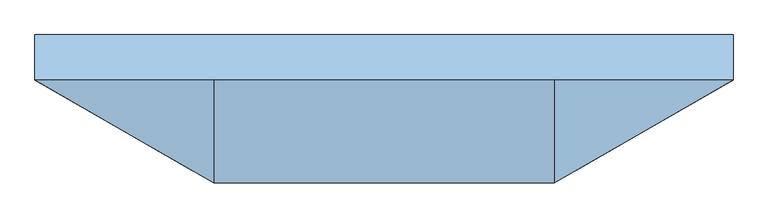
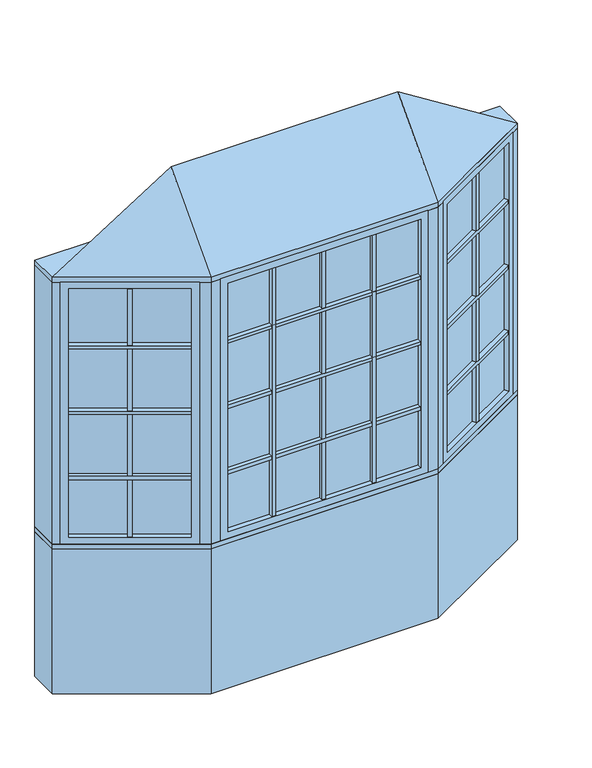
"""IFC4 building model written with IfcOpenShell, lengths in millimetres: window geometry, Pollard_Windows_Tudor Casement Bows and Bays : AML-BAY 30 AFR0614-12-600_GC."""

import ifcopenshell
import ifcopenshell.guid

model = None  # the IFC model being written
_history = None  # IfcOwnerHistory: only IFC2X3 demands one
_inside = {}  # id of a spatial element -> (the spatial element, [elements in it])
_under = {}  # id of a project, library or spatial element -> (it, [spatial elements below it])
_declared = {}  # id of a project -> (the project, [libraries it declares])
_typed = {}  # id of a type object -> (the type object, [elements of that type])
_made_of = {}  # id of a material, layer set ... -> (it, [elements and type objects made of it])


def new_model(schema):
    """Start an empty IFC model of exactly this schema.

    Asked for "IFC4X3", IfcOpenShell would pick the latest addendum, in which some entities
    have other attributes; the version numbers below select the first issue.
    IFC2X3 requires an IfcOwnerHistory on every rooted entity: one is made here for all.
    """
    global model, _history
    if schema == "IFC4X3":
        model = ifcopenshell.file(schema_version=(4, 3, 0, 0))
    else:
        model = ifcopenshell.file(schema=schema)
    _inside.clear()
    _under.clear()
    _declared.clear()
    _typed.clear()
    _made_of.clear()
    _history = None
    if model.schema == "IFC2X3":
        org = make("IfcOrganization", Name="unknown")
        user = make(
            "IfcPersonAndOrganization",
            ThePerson=make("IfcPerson", FamilyName="unknown"),
            TheOrganization=org,
        )
        app = make(
            "IfcApplication",
            ApplicationDeveloper=org,
            Version="unknown",
            ApplicationFullName="unknown",
            ApplicationIdentifier="unknown",
        )
        _history = make(
            "IfcOwnerHistory",
            OwningUser=user,
            OwningApplication=app,
            ChangeAction="ADDED",
            CreationDate=0,
        )
    return model


def make(cls, **values):
    """One entity of the class cls with the attributes given. An attribute that is None is left unset."""
    return model.create_entity(
        cls, **{name: value for name, value in values.items() if value is not None}
    )


def rooted(cls, **values):
    """An entity with a GlobalId (a new one), such as an element, a storey or a relation."""
    return make(cls, GlobalId=ifcopenshell.guid.new(), OwnerHistory=_history, **values)


def si_unit(unit_type, name, prefix=None):
    """IfcSIUnit, for example si_unit("LENGTHUNIT", "METRE", prefix="MILLI")."""
    return make("IfcSIUnit", UnitType=unit_type, Prefix=prefix, Name=name)


def assignment(units):
    """IfcUnitAssignment: the units of a project."""
    return None if units is None else make("IfcUnitAssignment", Units=units)


def point(xyz):
    """IfcCartesianPoint."""
    return None if xyz is None else make("IfcCartesianPoint", Coordinates=xyz)


def direction(xyz):
    """IfcDirection."""
    return None if xyz is None else make("IfcDirection", DirectionRatios=xyz)


def frame(location, z_axis=None, x_axis=None):
    """IfcAxis2Placement3D, a coordinate frame: its origin and axes. An axis left out is left unset."""
    return make(
        "IfcAxis2Placement3D",
        Location=point(location),
        Axis=direction(z_axis),
        RefDirection=direction(x_axis),
    )


def origin():
    """The frame at (0, 0, 0) with its axes left unset."""
    return frame((0.0, 0.0, 0.0))


def origin_with_axes():
    """The frame at (0, 0, 0) with the z axis (0, 0, 1) and the x axis (1, 0, 0) written out."""
    return frame((0.0, 0.0, 0.0), z_axis=(0.0, 0.0, 1.0), x_axis=(1.0, 0.0, 0.0))


def place(relative_to, where):
    """IfcLocalPlacement: puts the frame where relative to a parent placement (None: the world)."""
    return make(
        "IfcLocalPlacement", PlacementRelTo=relative_to, RelativePlacement=where
    )


def context(
    kind, dimensions, precision=None, world=None, true_north=None, identifier=None
):
    """IfcGeometricRepresentationContext, for example the 3D "Model" context."""
    return make(
        "IfcGeometricRepresentationContext",
        ContextIdentifier=identifier,
        ContextType=kind,
        CoordinateSpaceDimension=dimensions,
        Precision=precision,
        WorldCoordinateSystem=world,
        TrueNorth=true_north,
    )


def project(units=None, contexts=None):
    """IfcProject with its units and contexts."""
    return rooted(
        "IfcProject",
        Name="project",
        RepresentationContexts=contexts,
        UnitsInContext=assignment(units),
    )


def spatial(cls, under=None, at=None, **own):
    """A site, building, storey or space (cls), placed at a placement, below another one or the project."""
    s = rooted(cls, ObjectPlacement=at, **own)
    if under is not None:
        _under.setdefault(under.id(), (under, []))[1].append(s)
    return s


def polyline(points):
    """IfcPolyline through the points."""
    return make("IfcPolyline", Points=[point(p) for p in points])


def outline(outer, holes=None, kind="AREA"):
    """IfcArbitraryClosedProfileDef: a profile drawn as a closed curve; with holes, ...WithVoids."""
    if holes is None:
        return make("IfcArbitraryClosedProfileDef", ProfileType=kind, OuterCurve=outer)
    return make(
        "IfcArbitraryProfileDefWithVoids",
        ProfileType=kind,
        OuterCurve=outer,
        InnerCurves=holes,
    )


def extrude(swept, where, along, depth):
    """IfcExtrudedAreaSolid: the profile swept, set in the frame where, extruded along a direction by depth."""
    return make(
        "IfcExtrudedAreaSolid",
        SweptArea=swept,
        Position=where,
        ExtrudedDirection=direction(along),
        Depth=depth,
    )


def faces_of(points, faces, orient=None, outer=None):
    """IfcFace entities. A face is a list of loops; a loop is a list of indices into points, from 0.

    orient and outer hold one flag for each loop. By default every Orientation is true, the
    first loop of a face is its IfcFaceOuterBound and the others are IfcFaceBound.
    """
    made = []
    for i, loops in enumerate(faces):
        bounds = []
        for j, loop in enumerate(loops):
            is_outer = j == 0 if outer is None else outer[i][j]
            bounds.append(
                make(
                    "IfcFaceOuterBound" if is_outer else "IfcFaceBound",
                    Bound=make("IfcPolyLoop", Polygon=[points[k] for k in loop]),
                    Orientation=True if orient is None else orient[i][j],
                )
            )
        made.append(make("IfcFace", Bounds=bounds))
    return made


def faceted_brep(points, faces, orient=None, outer=None, voids=None):
    """IfcFacetedBrep: a solid bounded by flat faces; with voids (closed shells), ...WithVoids."""
    shared = [point(p) for p in points]
    hull = make("IfcClosedShell", CfsFaces=faces_of(shared, faces, orient, outer))
    if voids is None:
        return make("IfcFacetedBrep", Outer=hull)
    return make(
        "IfcFacetedBrepWithVoids",
        Outer=hull,
        Voids=[
            make(cls, CfsFaces=faces_of(shared, fs, o, b)) for cls, fs, o, b in voids
        ],
    )


def shape(context_of_items, identifier, shape_type, items):
    """IfcShapeRepresentation: the items that make up one representation, for example the "Body"."""
    return make(
        "IfcShapeRepresentation",
        ContextOfItems=context_of_items,
        RepresentationIdentifier=identifier,
        RepresentationType=shape_type,
        Items=items,
    )


def source(mapping_origin, context_of_items, identifier, shape_type, items):
    """IfcRepresentationMap: a shape defined once, which mapped items show again and again."""
    return make(
        "IfcRepresentationMap",
        MappingOrigin=mapping_origin,
        MappedRepresentation=shape(context_of_items, identifier, shape_type, items),
    )


def transform(
    local_origin,
    x_axis=None,
    y_axis=None,
    z_axis=None,
    scale=None,
    scale2=None,
    scale3=None,
    uniform=True,
):
    """IfcCartesianTransformationOperator3D, or its non-uniform kind. x_axis, y_axis, z_axis: its Axis1, 2, 3."""
    if uniform:
        return make(
            "IfcCartesianTransformationOperator3D",
            Axis1=direction(x_axis),
            Axis2=direction(y_axis),
            LocalOrigin=point(local_origin),
            Scale=scale,
            Axis3=direction(z_axis),
        )
    return make(
        "IfcCartesianTransformationOperator3DnonUniform",
        Axis1=direction(x_axis),
        Axis2=direction(y_axis),
        LocalOrigin=point(local_origin),
        Scale=scale,
        Axis3=direction(z_axis),
        Scale2=scale2,
        Scale3=scale3,
    )


def mapped(mapping_source, mapping_target):
    """IfcMappedItem: shows the shape of a source again, moved by a transform."""
    return make(
        "IfcMappedItem", MappingSource=mapping_source, MappingTarget=mapping_target
    )


def made_of(thing, what):
    """Note that an element or type object is made of a material, layer set ...; save() writes the relation."""
    if what is not None:
        _made_of.setdefault(what.id(), (what, []))[1].append(thing)
    return thing


def element(
    cls,
    number,
    at=None,
    inside=None,
    cuts=None,
    type_object=None,
    material=None,
    context=None,
    identifier="Body",
    shape_type=None,
    held_by="IfcProductDefinitionShape",
    body=None,
    shapes=None,
    **own,
):
    """One element of the class cls, such as IfcWall. Its Tag is "e" and its number.

    at: its placement. inside: the storey or other place that contains it. cuts: it is an
    opening in that element (IfcRelVoidsElement). A single representation is given by context,
    identifier, shape_type and body (its items); several are given by shapes. held_by: the class
    of the entity that holds the representations. save() writes the other relations.
    """
    e = rooted(cls, Tag="e%d" % number, ObjectPlacement=at, **own)
    if body is not None:
        shapes = [shape(context, identifier, shape_type, body)]
    if shapes is not None:
        e.Representation = make(held_by, Representations=shapes)
    if inside is not None:
        _inside.setdefault(inside.id(), (inside, []))[1].append(e)
    if cuts is not None:
        rooted(
            "IfcRelVoidsElement", RelatingBuildingElement=cuts, RelatedOpeningElement=e
        )
    if type_object is not None:
        _typed.setdefault(type_object.id(), (type_object, []))[1].append(e)
    return made_of(e, material)


def aggregate(whole, parts):
    """IfcRelAggregates: a whole, such as a stair, and the parts it consists of."""
    return rooted("IfcRelAggregates", RelatingObject=whole, RelatedObjects=parts)


def save(model, path):
    """Write the relations noted so far, then the file.

    IfcRelAggregates (storeys below a building ...), IfcRelContainedInSpatialStructure (elements
    in a storey), IfcRelDefinesByType, IfcRelAssociatesMaterial and IfcRelDeclares: one each for
    every whole, place, type object, material and project.
    """
    for whole, parts in _under.values():
        aggregate(whole, parts)
    for where, things in _inside.values():
        rooted(
            "IfcRelContainedInSpatialStructure",
            RelatedElements=things,
            RelatingStructure=where,
        )
    for kind, things in _typed.values():
        rooted("IfcRelDefinesByType", RelatedObjects=things, RelatingType=kind)
    for what, things in _made_of.values():
        rooted("IfcRelAssociatesMaterial", RelatedObjects=things, RelatingMaterial=what)
    for by, libraries in _declared.values():
        rooted("IfcRelDeclares", RelatingContext=by, RelatedDefinitions=libraries)
    model.write(path)


def window_95a61270(model_context):
    return source(origin(), model_context, "Body", "SolidModel", [
        extrude(outline(polyline([(646.881999, -376.6297343), (635.881999, -357.5771754), (1102.1135794, -88.3982469), (1113.1135794, -107.4508058), (646.881999, -376.6297343)])), frame((0.0, 0.0, 1490.998), z_axis=(0.0, 0.0, 1.0), x_axis=(1.0, 0.0, 0.0)), (0.0, 0.0, 1.0), 18.0),
        extrude(outline(polyline([(633.341999, -353.1777664), (622.341999, -334.1252075), (1088.5735794, -64.946279), (1099.5735794, -83.9988379), (633.341999, -353.1777664)])), frame((0.0, 0.0, 1490.998), z_axis=(0.0, 0.0, 1.0), x_axis=(1.0, 0.0, 0.0)), (0.0, 0.0, 1.0), 18.0),
        extrude(outline(polyline([(646.881999, -376.6297343), (635.881999, -357.5771754), (1102.1135794, -88.3982469), (1113.1135794, -107.4508058), (646.881999, -376.6297343)])), frame((0.0, 0.0, 1140.998), z_axis=(0.0, 0.0, 1.0), x_axis=(1.0, 0.0, 0.0)), (0.0, 0.0, 1.0), 18.0),
        extrude(outline(polyline([(633.341999, -353.1777664), (622.341999, -334.1252075), (1088.5735794, -64.946279), (1099.5735794, -83.9988379), (633.341999, -353.1777664)])), frame((0.0, 0.0, 1140.998), z_axis=(0.0, 0.0, 1.0), x_axis=(1.0, 0.0, 0.0)), (0.0, 0.0, 1.0), 18.0),
        extrude(outline(polyline([(646.881999, -376.6297343), (635.881999, -357.5771754), (1102.1135794, -88.3982469), (1113.1135794, -107.4508058), (646.881999, -376.6297343)])), frame((0.0, 0.0, 1490.998), z_axis=(0.0, 0.0, 1.0), x_axis=(1.0, 0.0, 0.0)), (0.0, 0.0, 1.0), 18.0),
        extrude(outline(polyline([(633.341999, -353.1777664), (622.341999, -334.1252075), (1088.5735794, -64.946279), (1099.5735794, -83.9988379), (633.341999, -353.1777664)])), frame((0.0, 0.0, 1490.998), z_axis=(0.0, 0.0, 1.0), x_axis=(1.0, 0.0, 0.0)), (0.0, 0.0, 1.0), 18.0),
        extrude(outline(polyline([(646.881999, -376.6297343), (635.881999, -357.5771754), (1102.1135794, -88.3982469), (1113.1135794, -107.4508058), (646.881999, -376.6297343)])), frame((0.0, 0.0, 1490.998), z_axis=(0.0, 0.0, 1.0), x_axis=(1.0, 0.0, 0.0)), (0.0, 0.0, 1.0), 18.0),
        extrude(outline(polyline([(633.341999, -353.1777664), (622.341999, -334.1252075), (1088.5735794, -64.946279), (1099.5735794, -83.9988379), (633.341999, -353.1777664)])), frame((0.0, 0.0, 1490.998), z_axis=(0.0, 0.0, 1.0), x_axis=(1.0, 0.0, 0.0)), (0.0, 0.0, 1.0), 18.0),
        extrude(outline(polyline([(646.881999, -376.6297343), (635.881999, -357.5771754), (1102.1135794, -88.3982469), (1113.1135794, -107.4508058), (646.881999, -376.6297343)])), frame((0.0, 0.0, 1840.998), z_axis=(0.0, 0.0, 1.0), x_axis=(1.0, 0.0, 0.0)), (0.0, 0.0, 1.0), 18.0),
        extrude(outline(polyline([(633.341999, -353.1777664), (622.341999, -334.1252075), (1088.5735794, -64.946279), (1099.5735794, -83.9988379), (633.341999, -353.1777664)])), frame((0.0, 0.0, 1840.998), z_axis=(0.0, 0.0, 1.0), x_axis=(1.0, 0.0, 0.0)), (0.0, 0.0, 1.0), 18.0),
        extrude(outline(polyline([(876.7920178, -218.4877112), (887.7920178, -237.5402701), (872.2035606, -246.5402701), (861.2035606, -227.4877112), (876.7920178, -218.4877112)])), frame((0.0, 0.0, 835.8628), z_axis=(0.0, 0.0, 1.0), x_axis=(1.0, 0.0, 0.0)), (0.0, 0.0, 1.0), 1328.2704),
        extrude(outline(polyline([(874.2520178, -214.0883021), (858.6635606, -223.0883021), (847.6635606, -204.0357432), (863.2520178, -195.0357432), (874.2520178, -214.0883021)])), frame((0.0, 0.0, 835.8628), z_axis=(0.0, 0.0, 1.0), x_axis=(1.0, 0.0, 0.0)), (0.0, 0.0, 1.0), 1328.2704),
        extrude(outline(polyline([(1113.112102, -82.0482469), (624.8834764, -363.9271754), (622.3434764, -359.5277664), (1110.572102, -77.6488379), (1113.112102, -82.0482469)])), frame((0.0, 0.0, 823.1628), z_axis=(0.0, 0.0, 1.0), x_axis=(1.0, 0.0, 0.0)), (0.0, 0.0, 1.0), 1353.6704),
        faceted_brep([(1102.1135794, -88.3982469, 835.8628), (1114.8135794, -110.3952922, 835.8628), (1114.8135794, -110.3952922, 2164.1332), (1102.1135794, -88.3982469, 2164.1332), (1110.572102, -77.6488379, 823.1628), (1113.112102, -82.0482469, 823.1628), (1113.112102, -82.0482469, 2176.8332), (1110.572102, -77.6488379, 2176.8332), (1086.8735794, -62.0017926, 835.8628), (1099.5735794, -83.9988379, 835.8628), (1099.5735794, -83.9988379, 2164.1332), (1086.8735794, -62.0017926, 2164.1332), (1145.8734073, -92.4628922, 799.998), (1117.9334073, -44.0693926, 799.998), (1117.9334073, -44.0693926, 2199.998), (1145.8734073, -92.4628922, 2199.998), (648.581999, -379.5742207, 2164.1332), (635.881999, -357.5771754, 2164.1332), (624.8834764, -363.9271754, 2176.8332), (622.3434764, -359.5277664, 2176.8332), (633.341999, -353.1777664, 2164.1332), (620.641999, -331.1807211, 2164.1332), (589.5821711, -349.1131211, 2199.998), (617.5221711, -397.5066207, 2199.998), (648.581999, -379.5742207, 835.8628), (635.881999, -357.5771754, 835.8628), (624.8834764, -363.9271754, 823.1628), (622.3434764, -359.5277664, 823.1628), (633.341999, -353.1777664, 835.8628), (620.641999, -331.1807211, 835.8628), (589.5821711, -349.1131211, 799.998), (617.5221711, -397.5066207, 799.998)], [[[0, 1, 2, 3]], [[4, 5, 6, 7]], [[8, 9, 10, 11]], [[12, 13, 14, 15]], [[3, 2, 16, 17]], [[7, 6, 18, 19]], [[11, 10, 20, 21]], [[15, 14, 22, 23]], [[17, 16, 24, 25]], [[19, 18, 26, 27]], [[21, 20, 28, 29]], [[23, 22, 30, 31]], [[25, 24, 1, 0]], [[5, 26, 18, 6], [3, 17, 25, 0]], [[27, 26, 5, 4]], [[7, 19, 27, 4], [9, 28, 20, 10]], [[29, 28, 9, 8]], [[13, 30, 22, 14], [11, 21, 29, 8]], [[31, 30, 13, 12]], [[15, 23, 31, 12], [1, 24, 16, 2]]]),
        extrude(outline(polyline([(264.0281504, -397.1066207), (264.0281504, -419.1066207), (246.0281504, -419.1066207), (246.0281504, -397.1066207), (264.0281504, -397.1066207)])), frame((0.0, 0.0, 835.8628), z_axis=(0.0, 0.0, 1.0), x_axis=(1.0, 0.0, 0.0)), (0.0, 0.0, 1.0), 1328.2704),
        extrude(outline(polyline([(264.0281504, -392.0266207), (246.0281504, -392.0266207), (246.0281504, -370.0266207), (264.0281504, -370.0266207), (264.0281504, -392.0266207)])), frame((0.0, 0.0, 835.8628), z_axis=(0.0, 0.0, 1.0), x_axis=(1.0, 0.0, 0.0)), (0.0, 0.0, 1.0), 1328.2704),
        extrude(outline(polyline([(-246.0281504, -397.1066207), (-246.0281504, -419.1066207), (-264.0281504, -419.1066207), (-264.0281504, -397.1066207), (-246.0281504, -397.1066207)])), frame((0.0, 0.0, 835.8628), z_axis=(0.0, 0.0, 1.0), x_axis=(1.0, 0.0, 0.0)), (0.0, 0.0, 1.0), 1328.2704),
        extrude(outline(polyline([(-246.0281504, -392.0266207), (-264.0281504, -392.0266207), (-264.0281504, -370.0266207), (-246.0281504, -370.0266207), (-246.0281504, -392.0266207)])), frame((0.0, 0.0, 835.8628), z_axis=(0.0, 0.0, 1.0), x_axis=(1.0, 0.0, 0.0)), (0.0, 0.0, 1.0), 1328.2704),
        extrude(outline(polyline([(-488.3561009, -419.1066207), (-488.3561009, -397.1066207), (488.3561009, -397.1066207), (488.3561009, -419.1066207), (-488.3561009, -419.1066207)])), frame((0.0, 0.0, 1140.998), z_axis=(0.0, 0.0, 1.0), x_axis=(1.0, 0.0, 0.0)), (0.0, 0.0, 1.0), 18.0),
        extrude(outline(polyline([(-488.3561009, -392.0266207), (-488.3561009, -370.0266207), (488.3561009, -370.0266207), (488.3561009, -392.0266207), (-488.3561009, -392.0266207)])), frame((0.0, 0.0, 1140.998), z_axis=(0.0, 0.0, 1.0), x_axis=(1.0, 0.0, 0.0)), (0.0, 0.0, 1.0), 18.0),
        extrude(outline(polyline([(-488.3561009, -419.1066207), (-488.3561009, -397.1066207), (488.3561009, -397.1066207), (488.3561009, -419.1066207), (-488.3561009, -419.1066207)])), frame((0.0, 0.0, 1490.998), z_axis=(0.0, 0.0, 1.0), x_axis=(1.0, 0.0, 0.0)), (0.0, 0.0, 1.0), 18.0),
        extrude(outline(polyline([(-488.3561009, -392.0266207), (-488.3561009, -370.0266207), (488.3561009, -370.0266207), (488.3561009, -392.0266207), (-488.3561009, -392.0266207)])), frame((0.0, 0.0, 1490.998), z_axis=(0.0, 0.0, 1.0), x_axis=(1.0, 0.0, 0.0)), (0.0, 0.0, 1.0), 18.0),
        extrude(outline(polyline([(-488.3561009, -419.1066207), (-488.3561009, -397.1066207), (488.3561009, -397.1066207), (488.3561009, -419.1066207), (-488.3561009, -419.1066207)])), frame((0.0, 0.0, 1490.998), z_axis=(0.0, 0.0, 1.0), x_axis=(1.0, 0.0, 0.0)), (0.0, 0.0, 1.0), 18.0),
        extrude(outline(polyline([(-488.3561009, -392.0266207), (-488.3561009, -370.0266207), (488.3561009, -370.0266207), (488.3561009, -392.0266207), (-488.3561009, -392.0266207)])), frame((0.0, 0.0, 1490.998), z_axis=(0.0, 0.0, 1.0), x_axis=(1.0, 0.0, 0.0)), (0.0, 0.0, 1.0), 18.0),
        extrude(outline(polyline([(-488.3561009, -419.1066207), (-488.3561009, -397.1066207), (488.3561009, -397.1066207), (488.3561009, -419.1066207), (-488.3561009, -419.1066207)])), frame((0.0, 0.0, 1490.998), z_axis=(0.0, 0.0, 1.0), x_axis=(1.0, 0.0, 0.0)), (0.0, 0.0, 1.0), 18.0),
        extrude(outline(polyline([(-488.3561009, -392.0266207), (-488.3561009, -370.0266207), (488.3561009, -370.0266207), (488.3561009, -392.0266207), (-488.3561009, -392.0266207)])), frame((0.0, 0.0, 1490.998), z_axis=(0.0, 0.0, 1.0), x_axis=(1.0, 0.0, 0.0)), (0.0, 0.0, 1.0), 18.0),
        extrude(outline(polyline([(-1113.1135794, -107.4508058), (-1102.1135794, -88.3982469), (-635.881999, -357.5771754), (-646.881999, -376.6297343), (-1113.1135794, -107.4508058)])), frame((0.0, 0.0, 1140.998), z_axis=(0.0, 0.0, 1.0), x_axis=(1.0, 0.0, 0.0)), (0.0, 0.0, 1.0), 18.0),
        extrude(outline(polyline([(-1099.5735794, -83.9988379), (-1088.5735794, -64.946279), (-622.341999, -334.1252075), (-633.341999, -353.1777664), (-1099.5735794, -83.9988379)])), frame((0.0, 0.0, 1140.998), z_axis=(0.0, 0.0, 1.0), x_axis=(1.0, 0.0, 0.0)), (0.0, 0.0, 1.0), 18.0),
        extrude(outline(polyline([(-1113.1135794, -107.4508058), (-1102.1135794, -88.3982469), (-635.881999, -357.5771754), (-646.881999, -376.6297343), (-1113.1135794, -107.4508058)])), frame((0.0, 0.0, 1490.998), z_axis=(0.0, 0.0, 1.0), x_axis=(1.0, 0.0, 0.0)), (0.0, 0.0, 1.0), 18.0),
        extrude(outline(polyline([(-1099.5735794, -83.9988379), (-1088.5735794, -64.946279), (-622.341999, -334.1252075), (-633.341999, -353.1777664), (-1099.5735794, -83.9988379)])), frame((0.0, 0.0, 1490.998), z_axis=(0.0, 0.0, 1.0), x_axis=(1.0, 0.0, 0.0)), (0.0, 0.0, 1.0), 18.0),
        extrude(outline(polyline([(-1113.1135794, -107.4508058), (-1102.1135794, -88.3982469), (-635.881999, -357.5771754), (-646.881999, -376.6297343), (-1113.1135794, -107.4508058)])), frame((0.0, 0.0, 1490.998), z_axis=(0.0, 0.0, 1.0), x_axis=(1.0, 0.0, 0.0)), (0.0, 0.0, 1.0), 18.0),
        extrude(outline(polyline([(-1099.5735794, -83.9988379), (-1088.5735794, -64.946279), (-622.341999, -334.1252075), (-633.341999, -353.1777664), (-1099.5735794, -83.9988379)])), frame((0.0, 0.0, 1490.998), z_axis=(0.0, 0.0, 1.0), x_axis=(1.0, 0.0, 0.0)), (0.0, 0.0, 1.0), 18.0),
        extrude(outline(polyline([(-1113.1135794, -107.4508058), (-1102.1135794, -88.3982469), (-635.881999, -357.5771754), (-646.881999, -376.6297343), (-1113.1135794, -107.4508058)])), frame((0.0, 0.0, 1490.998), z_axis=(0.0, 0.0, 1.0), x_axis=(1.0, 0.0, 0.0)), (0.0, 0.0, 1.0), 18.0),
        extrude(outline(polyline([(-1099.5735794, -83.9988379), (-1088.5735794, -64.946279), (-622.341999, -334.1252075), (-633.341999, -353.1777664), (-1099.5735794, -83.9988379)])), frame((0.0, 0.0, 1490.998), z_axis=(0.0, 0.0, 1.0), x_axis=(1.0, 0.0, 0.0)), (0.0, 0.0, 1.0), 18.0),
        extrude(outline(polyline([(-1113.1135794, -107.4508058), (-1102.1135794, -88.3982469), (-635.881999, -357.5771754), (-646.881999, -376.6297343), (-1113.1135794, -107.4508058)])), frame((0.0, 0.0, 1840.998), z_axis=(0.0, 0.0, 1.0), x_axis=(1.0, 0.0, 0.0)), (0.0, 0.0, 1.0), 18.0),
        extrude(outline(polyline([(-1099.5735794, -83.9988379), (-1088.5735794, -64.946279), (-622.341999, -334.1252075), (-633.341999, -353.1777664), (-1099.5735794, -83.9988379)])), frame((0.0, 0.0, 1840.998), z_axis=(0.0, 0.0, 1.0), x_axis=(1.0, 0.0, 0.0)), (0.0, 0.0, 1.0), 18.0),
        extrude(outline(polyline([(-488.3561009, -419.1066207), (-488.3561009, -397.1066207), (488.3561009, -397.1066207), (488.3561009, -419.1066207), (-488.3561009, -419.1066207)])), frame((0.0, 0.0, 1840.998), z_axis=(0.0, 0.0, 1.0), x_axis=(1.0, 0.0, 0.0)), (0.0, 0.0, 1.0), 18.0),
        extrude(outline(polyline([(-488.3561009, -392.0266207), (-488.3561009, -370.0266207), (488.3561009, -370.0266207), (488.3561009, -392.0266207), (-488.3561009, -392.0266207)])), frame((0.0, 0.0, 1840.998), z_axis=(0.0, 0.0, 1.0), x_axis=(1.0, 0.0, 0.0)), (0.0, 0.0, 1.0), 18.0),
        extrude(outline(polyline([(-861.2035606, -227.4877112), (-872.2035606, -246.5402701), (-887.7920178, -237.5402701), (-876.7920178, -218.4877112), (-861.2035606, -227.4877112)])), frame((0.0, 0.0, 835.8628), z_axis=(0.0, 0.0, 1.0), x_axis=(1.0, 0.0, 0.0)), (0.0, 0.0, 1.0), 1328.2704),
        extrude(outline(polyline([(-858.6635606, -223.0883021), (-874.2520178, -214.0883021), (-863.2520178, -195.0357432), (-847.6635606, -204.0357432), (-858.6635606, -223.0883021)])), frame((0.0, 0.0, 835.8628), z_axis=(0.0, 0.0, 1.0), x_axis=(1.0, 0.0, 0.0)), (0.0, 0.0, 1.0), 1328.2704),
        extrude(outline(polyline([(9.0, -397.1066207), (9.0, -419.1066207), (-9.0, -419.1066207), (-9.0, -397.1066207), (9.0, -397.1066207)])), frame((0.0, 0.0, 835.8628), z_axis=(0.0, 0.0, 1.0), x_axis=(1.0, 0.0, 0.0)), (0.0, 0.0, 1.0), 1328.2704),
        extrude(outline(polyline([(9.0, -392.0266207), (-9.0, -392.0266207), (-9.0, -370.0266207), (9.0, -370.0266207), (9.0, -392.0266207)])), frame((0.0, 0.0, 835.8628), z_axis=(0.0, 0.0, 1.0), x_axis=(1.0, 0.0, 0.0)), (0.0, 0.0, 1.0), 1328.2704),
        extrude(outline(polyline([(-624.8834764, -363.9271754), (-1113.112102, -82.0482469), (-1110.572102, -77.6488379), (-622.3434764, -359.5277664), (-624.8834764, -363.9271754)])), frame((0.0, 0.0, 823.1628), z_axis=(0.0, 0.0, 1.0), x_axis=(1.0, 0.0, 0.0)), (0.0, 0.0, 1.0), 1353.6704),
        faceted_brep([(-633.341999, -353.1777664, 2164.1332), (-620.641999, -331.1807211, 2164.1332), (-620.641999, -331.1807211, 835.8628), (-633.341999, -353.1777664, 835.8628), (-624.8834764, -363.9271754, 2176.8332), (-622.3434764, -359.5277664, 2176.8332), (-622.3434764, -359.5277664, 823.1628), (-624.8834764, -363.9271754, 823.1628), (-648.581999, -379.5742207, 2164.1332), (-635.881999, -357.5771754, 2164.1332), (-635.881999, -357.5771754, 835.8628), (-648.581999, -379.5742207, 835.8628), (-589.5821711, -349.1131211, 2199.998), (-617.5221711, -397.5066207, 2199.998), (-617.5221711, -397.5066207, 799.998), (-589.5821711, -349.1131211, 799.998), (-1086.8735794, -62.0017926, 835.8628), (-1099.5735794, -83.9988379, 835.8628), (-1110.572102, -77.6488379, 823.1628), (-1113.112102, -82.0482469, 823.1628), (-1102.1135794, -88.3982469, 835.8628), (-1114.8135794, -110.3952922, 835.8628), (-1145.8734073, -92.4628922, 799.998), (-1117.9334073, -44.0693926, 799.998), (-1086.8735794, -62.0017926, 2164.1332), (-1099.5735794, -83.9988379, 2164.1332), (-1110.572102, -77.6488379, 2176.8332), (-1113.112102, -82.0482469, 2176.8332), (-1102.1135794, -88.3982469, 2164.1332), (-1114.8135794, -110.3952922, 2164.1332), (-1145.8734073, -92.4628922, 2199.998), (-1117.9334073, -44.0693926, 2199.998)], [[[0, 1, 2, 3]], [[4, 5, 6, 7]], [[8, 9, 10, 11]], [[12, 13, 14, 15]], [[3, 2, 16, 17]], [[7, 6, 18, 19]], [[11, 10, 20, 21]], [[15, 14, 22, 23]], [[17, 16, 24, 25]], [[19, 18, 26, 27]], [[21, 20, 28, 29]], [[23, 22, 30, 31]], [[15, 23, 31, 12], [1, 24, 16, 2]], [[25, 24, 1, 0]], [[5, 26, 18, 6], [3, 17, 25, 0]], [[27, 26, 5, 4]], [[7, 19, 27, 4], [9, 28, 20, 10]], [[29, 28, 9, 8]], [[13, 30, 22, 14], [11, 21, 29, 8]], [[31, 30, 13, 12]]]),
        extrude(outline(polyline([(501.0561009, -397.1066207), (-501.0561009, -397.1066207), (-501.0561009, -392.0266207), (501.0561009, -392.0266207), (501.0561009, -397.1066207)])), frame((0.0, 0.0, 823.1628), z_axis=(0.0, 0.0, 1.0), x_axis=(1.0, 0.0, 0.0)), (0.0, 0.0, 1.0), 1353.6704),
        faceted_brep([(488.3561009, -397.1066207, 835.8628), (488.3561009, -422.5066207, 835.8628), (488.3561009, -422.5066207, 2164.1332), (488.3561009, -397.1066207, 2164.1332), (501.0561009, -392.0266207, 823.1628), (501.0561009, -397.1066207, 823.1628), (501.0561009, -397.1066207, 2176.8332), (501.0561009, -392.0266207, 2176.8332), (488.3561009, -366.6266207, 835.8628), (488.3561009, -392.0266207, 835.8628), (488.3561009, -392.0266207, 2164.1332), (488.3561009, -366.6266207, 2164.1332), (524.2209009, -422.5066207, 799.998), (524.2209009, -366.6266207, 799.998), (524.2209009, -366.6266207, 2199.998), (524.2209009, -422.5066207, 2199.998), (-488.3561009, -422.5066207, 2164.1332), (-488.3561009, -397.1066207, 2164.1332), (-501.0561009, -397.1066207, 2176.8332), (-501.0561009, -392.0266207, 2176.8332), (-488.3561009, -392.0266207, 2164.1332), (-488.3561009, -366.6266207, 2164.1332), (-524.2209009, -366.6266207, 2199.998), (-524.2209009, -422.5066207, 2199.998), (-488.3561009, -422.5066207, 835.8628), (-488.3561009, -397.1066207, 835.8628), (-501.0561009, -397.1066207, 823.1628), (-501.0561009, -392.0266207, 823.1628), (-488.3561009, -392.0266207, 835.8628), (-488.3561009, -366.6266207, 835.8628), (-524.2209009, -366.6266207, 799.998), (-524.2209009, -422.5066207, 799.998)], [[[0, 1, 2, 3]], [[4, 5, 6, 7]], [[8, 9, 10, 11]], [[12, 13, 14, 15]], [[3, 2, 16, 17]], [[7, 6, 18, 19]], [[11, 10, 20, 21]], [[15, 14, 22, 23]], [[17, 16, 24, 25]], [[19, 18, 26, 27]], [[21, 20, 28, 29]], [[23, 22, 30, 31]], [[15, 23, 31, 12], [1, 24, 16, 2]], [[25, 24, 1, 0]], [[5, 26, 18, 6], [3, 17, 25, 0]], [[27, 26, 5, 4]], [[7, 19, 27, 4], [9, 28, 20, 10]], [[29, 28, 9, 8]], [[13, 30, 22, 14], [11, 21, 29, 8]], [[31, 30, 13, 12]]]),
        faceted_brep([(1176.5, -74.7806207, 2225.398), (574.2209009, -422.5066207, 2225.398), (-574.2209009, -422.5066207, 2225.398), (-1176.5, -74.7806207, 2225.398), (-574.2209009, -74.7806207, 2606.398), (574.2209009, -74.7806207, 2606.398)], [[[0, 1, 2, 3]], [[3, 2, 4]], [[2, 1, 5, 4]], [[1, 0, 5]], [[0, 3, 4, 5]]]),
        extrude(outline(polyline([(-1176.5, 77.6193793), (1176.5, 77.6193793), (1176.5, -74.7806207), (574.2209009, -422.5066207), (-574.2209009, -422.5066207), (-1176.5, -74.7806207), (-1176.5, 77.6193793)])), frame((0.0, 0.0, 2199.998), z_axis=(0.0, 0.0, 1.0), x_axis=(1.0, 0.0, 0.0)), (0.0, 0.0, 1.0), 25.4),
        extrude(outline(polyline([(-1176.5, -74.7806207), (-1176.5, 77.6193793), (-1135.6645431, 77.6193793), (-1135.6645431, -74.7806207), (-1145.8734073, -92.4628922), (-1176.5, -74.7806207)])), frame((0.0, 0.0, 799.998), z_axis=(0.0, 0.0, 1.0), x_axis=(1.0, 0.0, 0.0)), (0.0, 0.0, 1.0), 1400.0),
        extrude(outline(polyline([(1176.5, 77.6193793), (1176.5, -74.7806207), (1145.8734073, -92.4628922), (1135.6645431, -74.7806207), (1135.6645431, 77.6193793), (1176.5, 77.6193793)])), frame((0.0, 0.0, 799.998), z_axis=(0.0, 0.0, 1.0), x_axis=(1.0, 0.0, 0.0)), (0.0, 0.0, 1.0), 1400.0),
        extrude(outline(polyline([(574.2209009, -422.5066207), (524.2209009, -422.5066207), (524.2209009, -372.5066207), (560.8234413, -372.5066207), (592.5221711, -354.2053505), (617.5221711, -397.5066207), (574.2209009, -422.5066207)])), frame((0.0, 0.0, 799.998), z_axis=(0.0, 0.0, 1.0), x_axis=(1.0, 0.0, 0.0)), (0.0, 0.0, 1.0), 1400.0),
        extrude(outline(polyline([(-574.2209009, -422.5066207), (-617.5221711, -397.5066207), (-592.5221711, -354.2053505), (-560.8234413, -372.5066207), (-524.2209009, -372.5066207), (-524.2209009, -422.5066207), (-574.2209009, -422.5066207)])), frame((0.0, 0.0, 799.998), z_axis=(0.0, 0.0, 1.0), x_axis=(1.0, 0.0, 0.0)), (0.0, 0.0, 1.0), 1400.0),
        extrude(outline(polyline([(-574.2209009, -422.5066207), (-1176.5, -74.7806207), (-1176.5, 77.6193793), (-1135.6645431, 77.6193793), (-533.385444, -270.1066207), (533.385444, -270.1066207), (1135.6645431, 77.6193793), (1176.5, 77.6193793), (1176.5, -74.7806207), (574.2209009, -422.5066207), (-574.2209009, -422.5066207)])), frame((0.0, 0.0, 774.598), z_axis=(0.0, 0.0, 1.0), x_axis=(1.0, 0.0, 0.0)), (0.0, 0.0, 1.0), 25.4),
        extrude(outline(polyline([(-1176.5, -74.7806207), (-1176.5, 77.6193793), (-1135.6645431, 77.6193793), (-533.385444, -270.1066207), (533.385444, -270.1066207), (1135.6645431, 77.6193793), (1176.5, 77.6193793), (1176.5, -74.7806207), (574.2209009, -422.5066207), (-574.2209009, -422.5066207), (-1176.5, -74.7806207)])), origin_with_axes(), (0.0, 0.0, 1.0), 774.598),
    ])


if __name__ == "__main__":
    model = new_model("IFC4")
    model_context = context("Model", 3, world=origin())
    ifc_project = project(units=[si_unit("LENGTHUNIT", "METRE", prefix="MILLI")], contexts=[model_context])
    site = spatial("IfcSite", under=ifc_project)
    building = spatial("IfcBuilding", under=site)
    placement = place(None, origin())
    window_shape = window_95a61270(model_context)
    element("IfcWindow", 1, ObjectType="Pollard_Windows_Tudor Casement Bows and Bays : AML-BAY 30 AFR0614-12-600_GC", at=placement, inside=building, context=model_context, shape_type="MappedRepresentation", body=[
        mapped(window_shape, transform((0.0, 0.0, 0.0), x_axis=(1.0, 0.0, 0.0), y_axis=(0.0, 1.0, 0.0), z_axis=(0.0, 0.0, 1.0))),
    ])
    save(model, "model.ifc")
